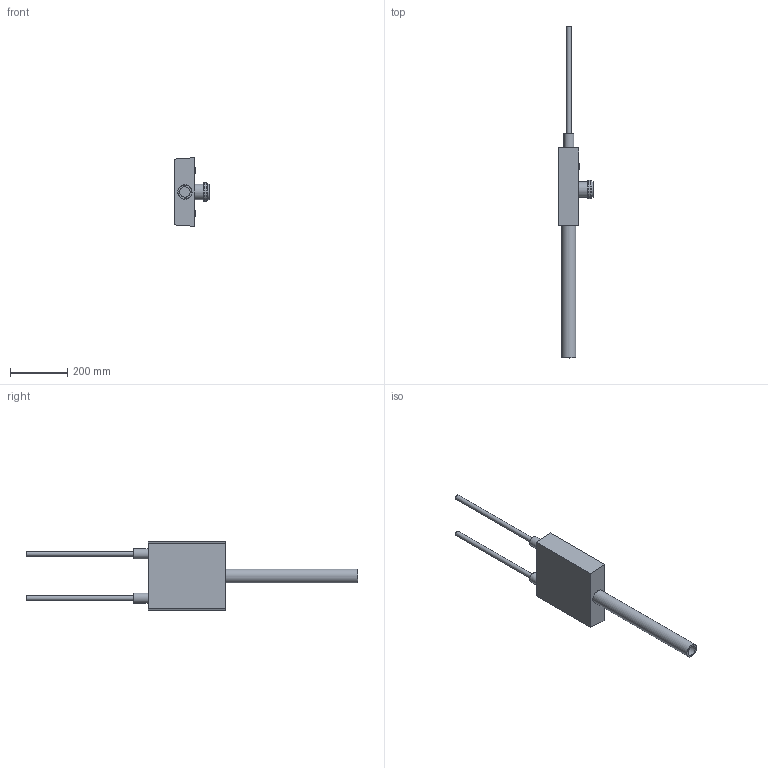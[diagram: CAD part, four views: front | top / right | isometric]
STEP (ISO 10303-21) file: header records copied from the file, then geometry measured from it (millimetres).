
FILE_DESCRIPTION(/* description */ (''),/* implementation_level */ '2;1');
FILE_NAME(/* name */ '\\LG50011\SANHA_Legnica\Engineering\Public\PROJEKTY\SANHA-BOX_Support_BiR\002-Rysunki_Boxów\325STMO16\325STMO16.stp',/* time_stamp */ '2018-11-05T14:35:28+01:00',/* author */ ('gomulka'),/* organization */ (''),/* preprocessor_version */ 'ST-DEVELOPER v16.13',/* originating_system */ 'Autodesk Inventor 2018',/* authorisation */ '');
FILE_SCHEMA (('AUTOMOTIVE_DESIGN { 1 0 10303 214 3 1 1 }'));
Length unit declared in the file: millimetre
Products named in the file (5): 325STMO16; 325STMO16_1; Rura_16x2; Rura_50; Kolano_DN50-OD50
Assembly tree (5 placements, depth 2):
  325STMO16
    325STMO16_1
    Rura_16x2  x2
    Rura_50
    Kolano_DN50-OD50
Bounding box: 119.69 x 1160.32 x 240 mm (x, y, z)
Volume: 4932162.2 mm3; surface area: 473638 mm2
Topology: 5 solids, 5 shells, 124 faces, 280 edges, 186 vertices
Faces by surface type: plane 86, cylinder 20, bspline 16, cone 2
Full cylindrical faces by diameter (mm): 14 x2, 16 x4, 18.631 x2, 21 x2, 35 x2, 35.993 x1, 48.5 x1, 50 x1, 51 x1, 55 x3, 65 x1
Entity records: 3565 total; most frequent: CARTESIAN_POINT 774, ORIENTED_EDGE 508, DIRECTION 488, EDGE_CURVE 254, LINE 184, VECTOR 184, VERTEX_POINT 182, EDGE_LOOP 166
